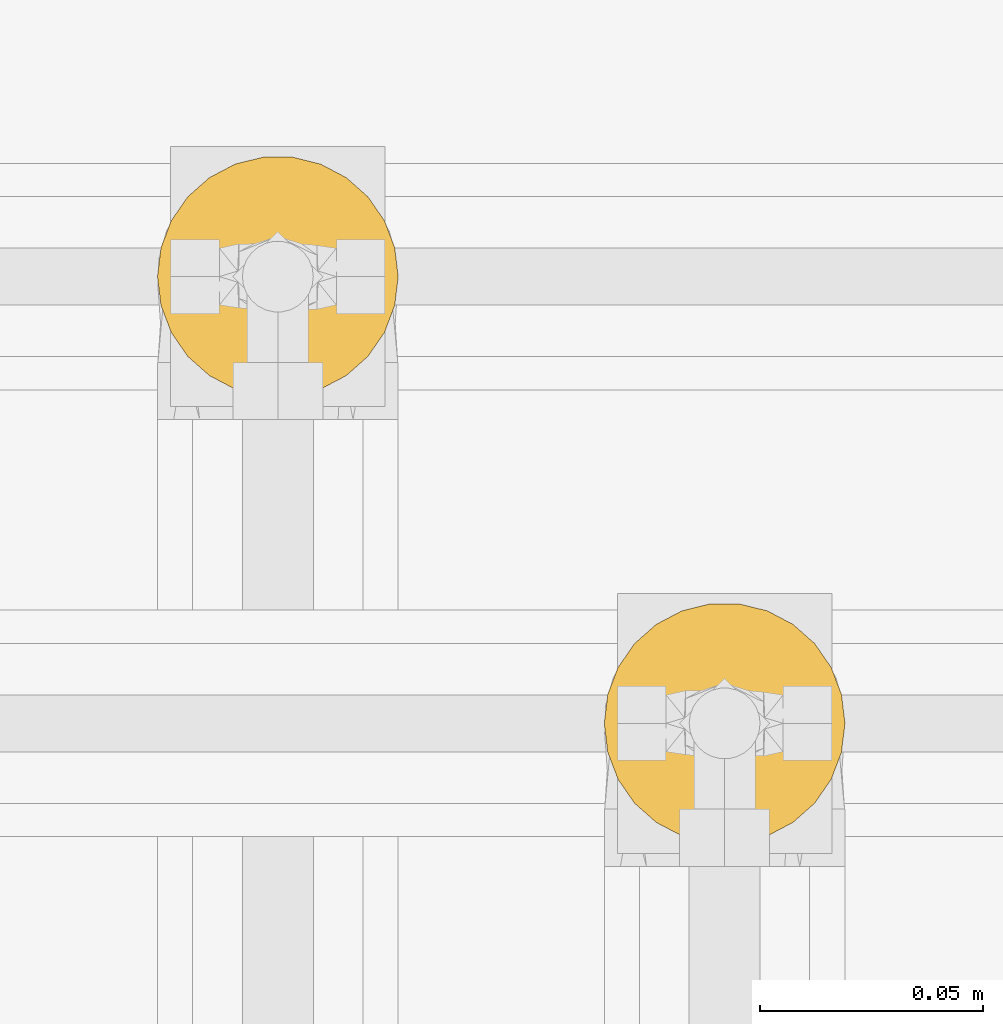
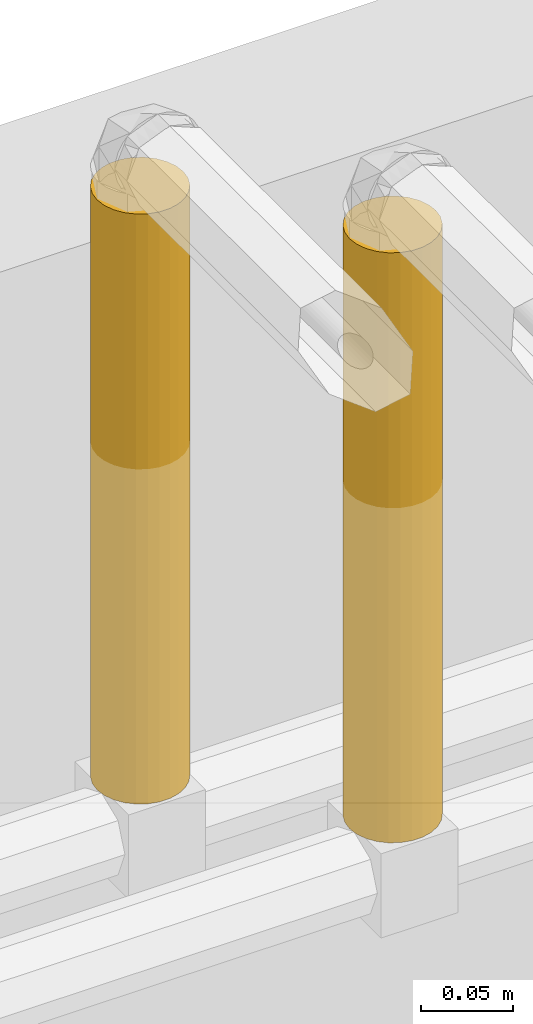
# One storey, part 62 of 652: 2 coverings.
"""IFC2X3 building model written with IfcOpenShell, lengths in millimetres."""

from ifc_helpers import new_model, entity, si_unit, converted_unit, direction, frame, origin, origin_2d_with_axis, place, context, subcontext, project, spatial, circle, extrude, material, type_object, element, save


model = new_model("IFC2X3")

# Units and contexts
model_context = context("Model", 3, precision=0.01, world=frame((0.0, 0.0, 308426.39999999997)), true_north=direction((6.123233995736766e-17, 1.0)))
plan_context = context("Plan", 3, precision=0.01, world=frame((0.0, 0.0, 308426.39999999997)), true_north=direction((6.123233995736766e-17, 1.0)))
body_context = subcontext(model_context, "Body", "Model", "MODEL_VIEW")
ifc_project = project(units=[si_unit("LENGTHUNIT", "METRE", prefix="MILLI"), si_unit("AREAUNIT", "SQUARE_METRE"), si_unit("VOLUMEUNIT", "CUBIC_METRE"), converted_unit("PLANEANGLEUNIT", "DEGREE", entity("IfcPlaneAngleMeasure", 0.017453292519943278), si_unit("PLANEANGLEUNIT", "RADIAN"), dimensions=[0, 0, 0, 0, 0, 0, 0])], contexts=[model_context, plan_context])

# Site, building, storey
site_placement = place(None, origin())
site = spatial("IfcSite", under=ifc_project, at=site_placement, Name="Default", CompositionType="ELEMENT")
building_placement = place(site_placement, origin())
building = spatial("IfcBuilding", under=site, at=building_placement, CompositionType="ELEMENT")
storey_placement = place(building_placement, frame((0.0, 0.0, 1730.6999999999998)))
storey = spatial("IfcBuildingStorey", under=building, at=storey_placement, Name="EG_Produktion_FFB", CompositionType="ELEMENT", Elevation=1730.6999999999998)

# Coverings
ifc_material = material(Name="Dämmung - Armaflex-Schlauch")
covering_type = type_object("IfcCoveringType", Name="Rohrdämmung außen:Armaflex-Schlauch", PredefinedType="INSULATION")
covering_1_placement = place(storey_placement, origin())
element("IfcCovering", 1, at=covering_1_placement, inside=storey, type_object=covering_type, material=ifc_material, Name="Rohrdämmung außen:Armaflex-Schlauch", ObjectType="Rohrdämmung außen:Armaflex-Schlauch", PredefinedType="INSULATION", context=body_context, shape_type="SweptSolid", body=[
    extrude(circle(Radius=26.9375, at=origin_2d_with_axis()), frame((15090.0, 69590.10319626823, 3778.3487500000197)), (0.0, 0.0, 1.0), 389.66749999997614),
])
covering_2_placement = place(storey_placement, origin())
element("IfcCovering", 2, at=covering_2_placement, inside=storey, type_object=covering_type, material=ifc_material, Name="Rohrdämmung außen:Armaflex-Schlauch", ObjectType="Rohrdämmung außen:Armaflex-Schlauch", PredefinedType="INSULATION", context=body_context, shape_type="SweptSolid", body=[
    extrude(circle(Radius=26.9375, at=origin_2d_with_axis()), frame((14990.0, 69690.10319626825, 3778.3487500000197)), (0.0, 0.0, 1.0), 389.66749999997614),
])

save(model, "model.ifc")
